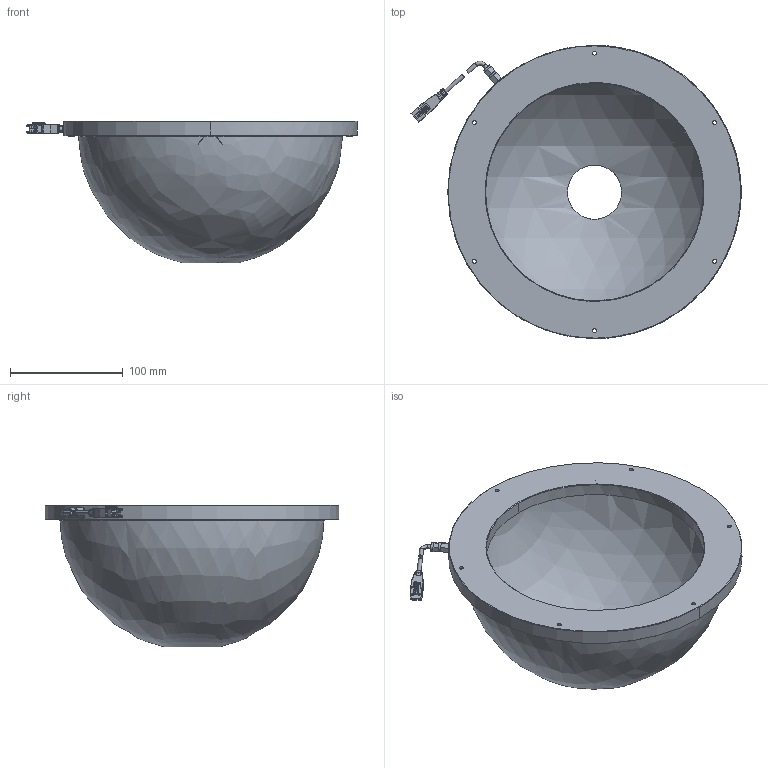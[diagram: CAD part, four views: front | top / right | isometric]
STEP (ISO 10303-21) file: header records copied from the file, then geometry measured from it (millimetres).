
FILE_DESCRIPTION(/* description */ (''),/* implementation_level */ '2;1');
FILE_NAME(/* name */ 'CST-DS260-简易3D图.STEP',/* time_stamp */ '2022-10-19T11:29:58+08:00',/* author */ (''),/* organization */ (''),/* preprocessor_version */ 'ST-DEVELOPER v16',/* originating_system */ 'SIEMENS PLM Software NX 10.0',/* authorisation */ '');
FILE_SCHEMA (('AUTOMOTIVE_DESIGN { 1 0 10303 214 3 1 1 1 }'));
Length unit declared in the file: millimetre
Products named in the file (1): CST-DS260-HK-简易3D图_step
Bounding box: 292.56 x 260 x 125.71 mm (x, y, z)
Volume: 405717.4 mm3; surface area: 238584.4 mm2
Topology: 15 solids, 15 shells, 590 faces, 1515 edges, 945 vertices
Faces by surface type: plane 279, cylinder 171, bspline 102, cone 35, torus 2, sphere 1
Entity records: 21675 total; most frequent: CARTESIAN_POINT 9720, ORIENTED_EDGE 2950, DIRECTION 1769, EDGE_CURVE 1475, VERTEX_POINT 945, AXIS2_PLACEMENT_3D 655, EDGE_LOOP 634, ADVANCED_FACE 590
